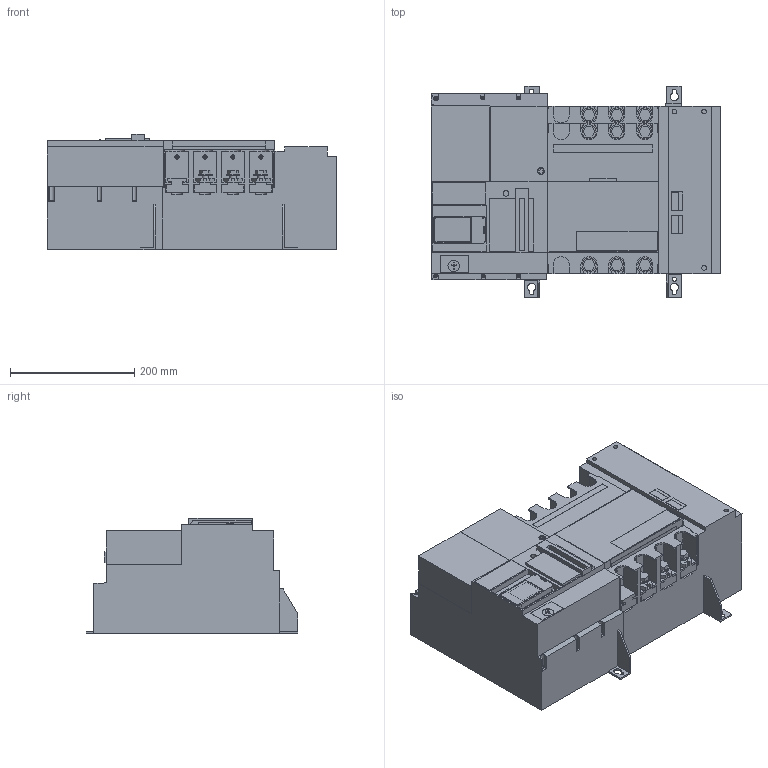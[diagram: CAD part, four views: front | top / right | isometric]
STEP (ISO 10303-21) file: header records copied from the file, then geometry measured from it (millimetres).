
FILE_DESCRIPTION((''),'2;1');
FILE_NAME('1669264762360_ASM','2022-11-24T10:09:47',('SESA654545'),('Schneider-Electric'),'CREO PARAMETRIC BY PTC INC, 2021284','CREO PARAMETRIC BY PTC INC, 2021284','');
FILE_SCHEMA(('AP242_MANAGED_MODEL_BASED_3D_ENGINEERING_MIM_LF { 1 0 10303 442 1 1 4 }'));
Products named in the file (4): EMPTYNODE_1669264762940_ASM; R4-3P-LCD-V04; R4-3P-LCD-V04-35_ASM; 1669264762360_ASM
Assembly tree (3 placements, depth 3):
  1669264762360_ASM
    EMPTYNODE_1669264762940_ASM
    R4-3P-LCD-V04-35_ASM
      R4-3P-LCD-V04
Bounding box: 467.1 x 341.01 x 185.8 mm (x, y, z)
Volume: 19691402.6 mm3; surface area: 847479.9 mm2
Topology: 2 solids, 3 shells, 1735 faces, 4692 edges, 3100 vertices
Faces by surface type: plane 1363, cylinder 316, extrusion 56
Entity records: 77230 total; most frequent: CARTESIAN_POINT 11233, ORIENTED_EDGE 9384, DIRECTION 8634, PRESENTATION_STYLE_ASSIGNMENT 5376, STYLED_ITEM 4744, CURVE_STYLE 4742, EDGE_CURVE 4692, VECTOR 3924
